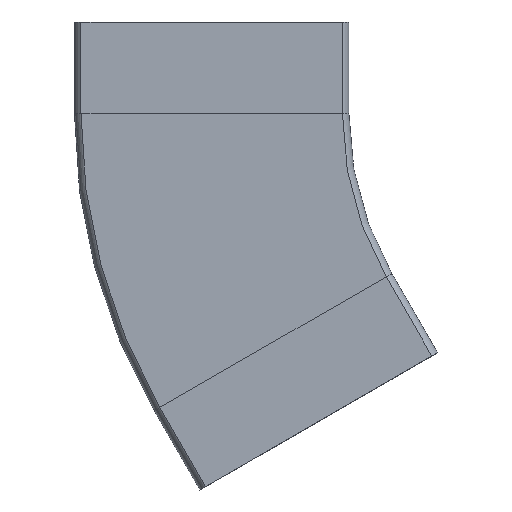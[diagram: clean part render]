
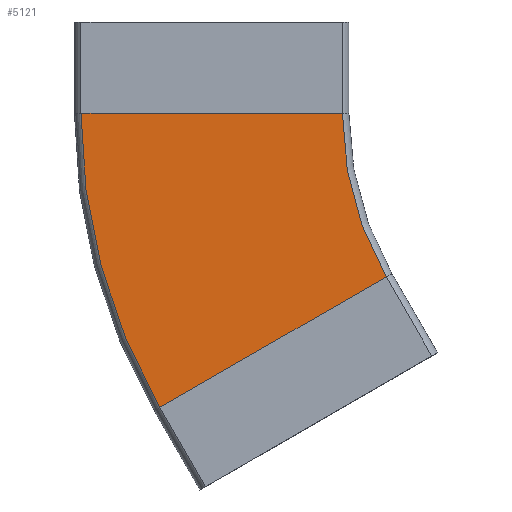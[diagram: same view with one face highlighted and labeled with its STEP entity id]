
A CAD part, front view. The second image highlights one B-rep face of the part: STEP entity #5121.
In plain terms, the highlighted planar face has unit normal (0, -1, 0).
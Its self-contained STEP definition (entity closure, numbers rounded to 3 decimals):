
#52 = DIRECTION ( 'NONE',  ( 0.866, 0., 0.5 ) ) ;
#104 = CARTESIAN_POINT ( 'NONE',  ( -22.698, -56.5, -168.575 ) ) ;
#112 = EDGE_CURVE ( 'NONE', #204, #2705, #1801, .T. ) ;
#172 = CARTESIAN_POINT ( 'NONE',  ( 57.15, -56.5, -40. ) ) ;
#204 = VERTEX_POINT ( 'NONE', #172 ) ;
#681 = FACE_OUTER_BOUND ( 'NONE', #5009, .T. ) ;
#857 = ORIENTED_EDGE ( 'NONE', *, *, #2963, .T. ) ;
#1005 = DIRECTION ( 'NONE',  ( 0., 1., 0. ) ) ;
#1039 = CARTESIAN_POINT ( 'NONE',  ( -57.15, -56.5, -40. ) ) ;
#1073 = EDGE_CURVE ( 'NONE', #4476, #2290, #2728, .T. ) ;
#1087 = CIRCLE ( 'NONE', #1729, 142.85 ) ;
#1332 = VECTOR ( 'NONE', #52, 1000. ) ;
#1396 = CARTESIAN_POINT ( 'NONE',  ( 200., -56.5, -40. ) ) ;
#1729 = AXIS2_PLACEMENT_3D ( 'NONE', #5195, #2144, #1741 ) ;
#1741 = DIRECTION ( 'NONE',  ( 0., 0., 1. ) ) ;
#1801 = LINE ( 'NONE', #3954, #2955 ) ;
#2091 = EDGE_CURVE ( 'NONE', #4476, #2705, #2428, .T. ) ;
#2125 = DIRECTION ( 'NONE',  ( 0., 1., 0. ) ) ;
#2144 = DIRECTION ( 'NONE',  ( 0., 1., 0. ) ) ;
#2173 = ORIENTED_EDGE ( 'NONE', *, *, #1073, .T. ) ;
#2290 = VERTEX_POINT ( 'NONE', #3016 ) ;
#2428 = CIRCLE ( 'NONE', #3078, 257.15 ) ;
#2572 = DIRECTION ( 'NONE',  ( 0., 0., 1. ) ) ;
#2705 = VERTEX_POINT ( 'NONE', #1039 ) ;
#2728 = LINE ( 'NONE', #4837, #1332 ) ;
#2955 = VECTOR ( 'NONE', #5302, 1000. ) ;
#2963 = EDGE_CURVE ( 'NONE', #2290, #204, #1087, .T. ) ;
#3016 = CARTESIAN_POINT ( 'NONE',  ( 76.288, -56.5, -111.425 ) ) ;
#3078 = AXIS2_PLACEMENT_3D ( 'NONE', #1396, #1005, #3191 ) ;
#3191 = DIRECTION ( 'NONE',  ( 0., 0., 1. ) ) ;
#3210 = ORIENTED_EDGE ( 'NONE', *, *, #2091, .F. ) ;
#3407 = CARTESIAN_POINT ( 'NONE',  ( 76.288, -56.5, -111.425 ) ) ;
#3954 = CARTESIAN_POINT ( 'NONE',  ( 0., -56.5, -40. ) ) ;
#4476 = VERTEX_POINT ( 'NONE', #104 ) ;
#4743 = PLANE ( 'NONE',  #5010 ) ;
#4837 = CARTESIAN_POINT ( 'NONE',  ( 76.288, -56.5, -111.425 ) ) ;
#5009 = EDGE_LOOP ( 'NONE', ( #5190, #3210, #2173, #857 ) ) ;
#5010 = AXIS2_PLACEMENT_3D ( 'NONE', #3407, #2125, #2572 ) ;
#5121 = ADVANCED_FACE ( 'NONE', ( #681 ), #4743, .F. ) ;
#5190 = ORIENTED_EDGE ( 'NONE', *, *, #112, .T. ) ;
#5195 = CARTESIAN_POINT ( 'NONE',  ( 200., -56.5, -40. ) ) ;
#5302 = DIRECTION ( 'NONE',  ( -1., 0., 0. ) ) ;
